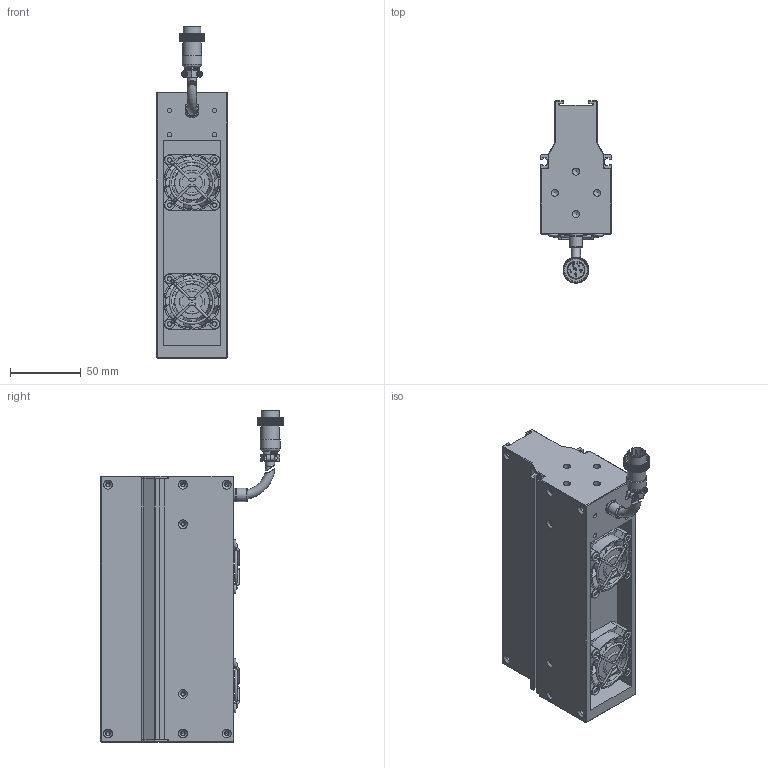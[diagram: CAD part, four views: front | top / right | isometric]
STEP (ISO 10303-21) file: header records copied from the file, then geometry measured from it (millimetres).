
FILE_DESCRIPTION (( 'STEP AP203' ), '1' );
FILE_NAME ('OPT-LSS188-W-V3.1尨砩芞.STEP', '2025-01-20T08:22:36', ( 'USER' ), ( '' ), 'SwSTEP 2.0', 'SolidWorks 2016', '' );
FILE_SCHEMA (( 'CONFIG_CONTROL_DESIGN' ));
Products named in the file (2): OPT-LSS188-W-V3.1尨砩芞
Bounding box: 50 x 128.85 x 234.78 mm (x, y, z)
Volume: 642629.6 mm3; surface area: 115851.4 mm2
Topology: 13 solids, 21 shells, 3705 faces, 8189 edges, 4590 vertices
Faces by surface type: bspline 2113, cylinder 756, plane 669, torus 118, cone 49
Full cylindrical faces by diameter (mm): 0.95 x6, 1.1 x2, 1.4 x2, 1.6 x8, 2 x6, 2.5 x16, 3.2 x12, 3.4 x16, 3.5 x4, 5 x8, 6.2 x8, 6.4 x3, 7.5 x1, 8.6 x1, 9.3 x1, 9.8 x1, 10 x1, 13.2 x1, 14 x1, 16.1 x1, 24.8 x2, 38 x2
Entity records: 125033 total; most frequent: CARTESIAN_POINT 63274, ORIENTED_EDGE 15846, EDGE_CURVE 7923, DIRECTION 6172, B_SPLINE_CURVE_WITH_KNOTS 5588, VERTEX_POINT 4528, EDGE_LOOP 4001, FACE_OUTER_BOUND 3852
